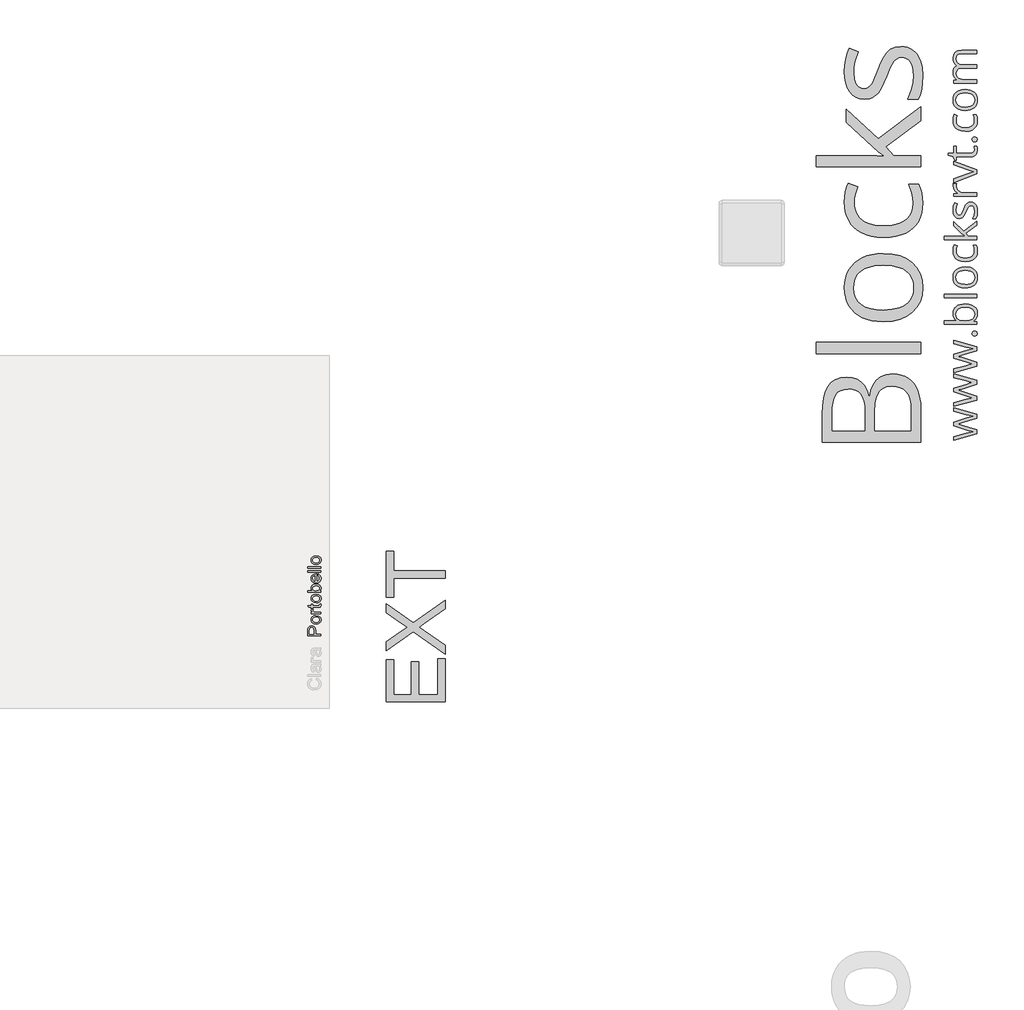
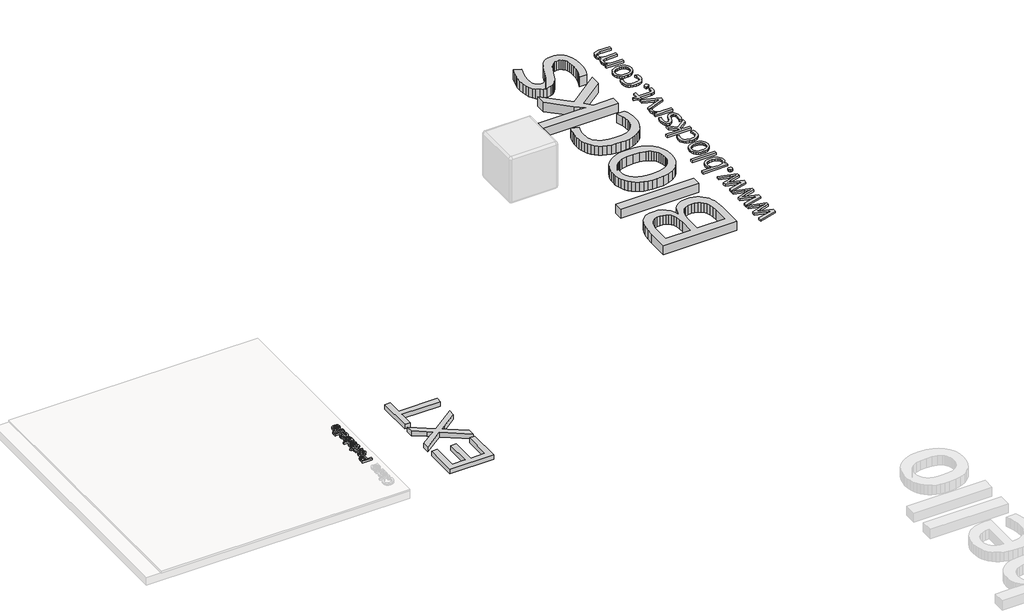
# One storey, part 6 of 6: 4 proxies.
"""IFC4 building model written with IfcOpenShell, lengths in millimetres."""

from ifc_helpers import new_model, si_unit, frame, origin, origin_with_axes, place, context, project, spatial, polyline, outline, extrude, element, save

model = new_model("IFC4")

# Units and contexts
model_context = context("Model", 3, world=origin())
ifc_project = project(units=[si_unit("LENGTHUNIT", "METRE", prefix="MILLI")], contexts=[model_context])

# Site, building, storey
site = spatial("IfcSite", under=ifc_project)
building = spatial("IfcBuilding", under=site)
storey = spatial("IfcBuildingStorey", under=building, Name="PORTOBELLO - SHOWROOM", Elevation=0.0)

# Proxies
placement = place(None, origin())
element("IfcBuildingElementProxy", 1, Name="10mm Arial", ObjectType="10mm Arial", at=placement, inside=storey, context=model_context, shape_type="SweptSolid", body=[
    extrude(outline(polyline([(153128.3895945, -1464.8655286), (153027.9332844, -1464.8655286), (153027.9332844, -1427.6358707), (153028.8897775, -1412.6262853), (153033.5864043, -1400.4248658), (153043.298489, -1392.5154029), (153056.995962, -1389.523296), (153068.8356309, -1391.5435813), (153078.7009997, -1397.6044372), (153085.3596638, -1408.9382683), (153087.5792185, -1426.7774794), (153087.5792185, -1452.3084899), (153128.3895945, -1452.3084899), (153128.3895945, -1464.8655286)]), holes=[polyline([(153075.0221797, -1452.3084899), (153075.0221797, -1426.0417154), (153070.4113921, -1407.5495138), (153064.8625053, -1403.4476295), (153057.4374204, -1402.0803348), (153047.0386226, -1405.3054336), (153041.3487144, -1413.7789822), (153040.4903231, -1426.336021), (153040.4903231, -1452.3084899), (153075.0221797, -1452.3084899)])]), frame((0.0, 0.0, 17.0), z_axis=(0.0, 0.0, 1.0), x_axis=(1.0, 0.0, 0.0)), (0.0, 0.0, 1.0), 20.0),
    extrude(outline(polyline([(153091.5032931, -1376.9662573), (153073.7161987, -1374.2500619), (153061.2143422, -1366.1014757), (153055.089107, -1356.0337717), (153053.0473619, -1343.979505), (153055.533631, -1330.7878698), (153062.9924385, -1320.2511163), (153074.8351731, -1313.3441319), (153090.4732235, -1311.0418037), (153112.8159234, -1315.1130311), (153125.4588013, -1326.9710941), (153129.9592243, -1343.979505), (153127.4821522, -1357.3305558), (153120.0509359, -1367.8550465), (153107.959881, -1374.6884546), (153091.5032931, -1376.9662573)]), holes=[polyline([(153091.4787677, -1364.4092185), (153102.8432556, -1362.9560846), (153110.9397252, -1358.596683), (153115.7865705, -1352.0361207), (153117.4021856, -1343.979505), (153115.7773734, -1335.9596775), (153110.902937, -1329.411378), (153102.6991685, -1325.0519764), (153091.0863602, -1323.5988425), (153080.052966, -1325.0611734), (153072.066861, -1329.4481662), (153067.2200158, -1336.0056628), (153065.6044007, -1343.979505), (153067.2138844, -1352.0361207), (153072.0423356, -1358.596683), (153080.1204111, -1362.9560846), (153091.4787677, -1364.4092185)])]), frame((0.0, 0.0, 17.0), z_axis=(0.0, 0.0, 1.0), x_axis=(1.0, 0.0, 0.0)), (0.0, 0.0, 1.0), 20.0),
    extrude(outline(polyline([(153128.3895945, -1296.9151351), (153054.6169917, -1296.9151351), (153054.6169917, -1285.9277262), (153065.5308243, -1285.9277262), (153055.4753831, -1278.1286279), (153053.0473619, -1270.2804787), (153056.9223856, -1257.674389), (153068.1795746, -1261.8682437), (153065.6044007, -1270.6974116), (153068.0814728, -1277.7975341), (153074.9486033, -1282.3224826), (153089.6148322, -1284.3580963), (153128.3895945, -1284.3580963), (153128.3895945, -1296.9151351)])), frame((0.0, 0.0, 17.0), z_axis=(0.0, 0.0, 1.0), x_axis=(1.0, 0.0, 0.0)), (0.0, 0.0, 1.0), 20.0),
    extrude(outline(polyline([(153117.9172204, -1223.1425323), (153128.7574765, -1221.5729025), (153129.9592243, -1230.9661561), (153127.8745597, -1241.4875812), (153122.4053807, -1246.736031), (153108.1560848, -1248.2566099), (153067.1740305, -1248.2566099), (153067.1740305, -1257.674389), (153056.9223856, -1257.674389), (153054.6169917, -1257.674389), (153054.6169917, -1248.2566099), (153036.6888758, -1248.2566099), (153029.3067105, -1235.6995711), (153054.6169917, -1235.6995711), (153054.6169917, -1223.1425323), (153067.1740305, -1223.1425323), (153067.1740305, -1235.6995711), (153107.7882028, -1235.6995711), (153114.2629259, -1235.0373835), (153116.556057, -1232.8914052), (153117.4021856, -1228.6117113), (153117.9172204, -1223.1425323)])), frame((0.0, 0.0, 17.0), z_axis=(0.0, 0.0, 1.0), x_axis=(1.0, 0.0, 0.0)), (0.0, 0.0, 1.0), 20.0),
    extrude(outline(polyline([(153091.5032931, -1213.7247533), (153073.7161987, -1211.0085579), (153061.2143422, -1202.8599717), (153055.089107, -1192.7922677), (153053.0473619, -1180.738001), (153055.533631, -1167.5463658), (153062.9924385, -1157.0096123), (153074.8351731, -1150.1026279), (153090.4732235, -1147.8002997), (153112.8159234, -1151.8715271), (153125.4588013, -1163.7295901), (153129.9592243, -1180.738001), (153127.4821522, -1194.0890518), (153120.0509359, -1204.6135425), (153107.959881, -1211.4469506), (153091.5032931, -1213.7247533)]), holes=[polyline([(153091.4787677, -1201.1677145), (153102.8432556, -1199.7145806), (153110.9397252, -1195.355179), (153115.7865705, -1188.7946167), (153117.4021856, -1180.738001), (153115.7773734, -1172.7181735), (153110.902937, -1166.169874), (153102.6991685, -1161.8104724), (153091.0863602, -1160.3573385), (153080.052966, -1161.8196694), (153072.066861, -1166.2066622), (153067.2200158, -1172.7641588), (153065.6044007, -1180.738001), (153067.2138844, -1188.7946167), (153072.0423356, -1195.355179), (153080.1204111, -1199.7145806), (153091.4787677, -1201.1677145)])]), frame((0.0, 0.0, 17.0), z_axis=(0.0, 0.0, 1.0), x_axis=(1.0, 0.0, 0.0)), (0.0, 0.0, 1.0), 20.0),
    extrude(outline(polyline([(153128.3895945, -1121.1165923), (153128.3895945, -1133.6736311), (153027.9332844, -1133.6736311), (153027.9332844, -1121.1165923), (153065.1874677, -1121.1165923), (153056.0823884, -1112.3242127), (153053.0473619, -1101.3981174), (153055.7819514, -1088.8165532), (153063.4706851, -1079.0554176), (153075.4268499, -1073.058941), (153090.3996471, -1070.8884373), (153107.1628034, -1073.1355831), (153119.634003, -1079.8770207), (153127.377919, -1089.7699807), (153129.9592243, -1101.4716938), (153126.6298923, -1112.6369124), (153116.6418961, -1121.1165923), (153128.3895945, -1121.1165923)]), holes=[polyline([(153090.9882583, -1121.1165923), (153108.5484922, -1117.6830271), (153115.1887622, -1111.1040707), (153117.4021856, -1102.5508143), (153115.7712421, -1095.303539), (153110.8784115, -1089.1108588), (153102.7543508, -1084.8618217), (153091.4297167, -1083.445476), (153079.9395357, -1084.8035737), (153071.9074455, -1088.8778668), (153067.1801619, -1094.877409), (153065.6044007, -1102.0112541), (153067.2353442, -1109.2585294), (153072.1281747, -1115.4512096), (153080.1050826, -1119.7002467), (153090.9882583, -1121.1165923)])]), frame((0.0, 0.0, 17.0), z_axis=(0.0, 0.0, 1.0), x_axis=(1.0, 0.0, 0.0)), (0.0, 0.0, 1.0), 20.0),
    extrude(outline(polyline([(153106.4147767, -1005.1111365), (153107.9844065, -992.7993524), (153117.2611641, -997.2353962), (153124.1957398, -1004.3140589), (153128.5183532, -1013.8759251), (153129.9592243, -1025.7615792), (153127.4729552, -1040.4952531), (153120.0141477, -1051.8321499), (153108.06718, -1059.0610311), (153092.1164298, -1061.4706582), (153075.629185, -1059.0365057), (153063.2990068, -1051.7340481), (153055.6102731, -1040.5504354), (153053.0473619, -1026.4728177), (153055.6041418, -1012.8335927), (153063.2744814, -1001.9350886), (153075.5801341, -994.7889809), (153092.0428534, -992.406945), (153095.4273677, -992.4805214), (153095.4273677, -1048.9136194), (153104.8267527, -1046.74005), (153111.7368029, -1041.6908696), (153115.9858399, -1034.4037404), (153117.4021856, -1025.5163245), (153114.7779607, -1013.2045404), (153106.4147767, -1005.1111365)]), holes=[polyline([(153082.870329, -1048.9136194), (153082.870329, -1004.9639837), (153071.4905126, -1009.9917043), (153067.0759286, -1017.312556), (153065.6044007, -1026.5218687), (153070.3010275, -1041.9851752), (153075.7916662, -1046.8504146), (153082.870329, -1048.9136194)])]), frame((0.0, 0.0, 17.0), z_axis=(0.0, 0.0, 1.0), x_axis=(1.0, 0.0, 0.0)), (0.0, 0.0, 1.0), 20.0),
    extrude(outline(polyline([(153128.3895945, -979.8499062), (153027.9332844, -979.8499062), (153027.9332844, -967.2928674), (153128.3895945, -967.2928674), (153128.3895945, -979.8499062)])), frame((0.0, 0.0, 17.0), z_axis=(0.0, 0.0, 1.0), x_axis=(1.0, 0.0, 0.0)), (0.0, 0.0, 1.0), 20.0),
    extrude(outline(polyline([(153128.3895945, -948.4573093), (153027.9332844, -948.4573093), (153027.9332844, -935.9002705), (153128.3895945, -935.9002705), (153128.3895945, -948.4573093)])), frame((0.0, 0.0, 17.0), z_axis=(0.0, 0.0, 1.0), x_axis=(1.0, 0.0, 0.0)), (0.0, 0.0, 1.0), 20.0),
    extrude(outline(polyline([(153091.5032931, -920.203972), (153073.7161987, -917.4877766), (153061.2143422, -909.3391905), (153055.089107, -899.2714865), (153053.0473619, -887.2172198), (153055.533631, -874.0255846), (153062.9924385, -863.4888311), (153074.8351731, -856.5818467), (153090.4732235, -854.2795185), (153112.8159234, -858.3507459), (153125.4588013, -870.2088089), (153129.9592243, -887.2172198), (153127.4821522, -900.5682706), (153120.0509359, -911.0927613), (153107.959881, -917.9261694), (153091.5032931, -920.203972)]), holes=[polyline([(153091.4787677, -907.6469333), (153102.8432556, -906.1937994), (153110.9397252, -901.8343978), (153115.7865705, -895.2738355), (153117.4021856, -887.2172198), (153115.7773734, -879.1973923), (153110.902937, -872.6490928), (153102.6991685, -868.2896912), (153091.0863602, -866.8365573), (153080.052966, -868.2988882), (153072.066861, -872.685881), (153067.2200158, -879.2433776), (153065.6044007, -887.2172198), (153067.2138844, -895.2738355), (153072.0423356, -901.8343978), (153080.1204111, -906.1937994), (153091.4787677, -907.6469333)])]), frame((0.0, 0.0, 17.0), z_axis=(0.0, 0.0, 1.0), x_axis=(1.0, 0.0, 0.0)), (0.0, 0.0, 1.0), 20.0),
])
element("IfcBuildingElementProxy", 2, Name="25mm OpenSans", ObjectType="25mm OpenSans", at=placement, inside=storey, context=model_context, shape_type="SweptSolid", body=[
    extrude(outline(polyline([(158150.2193997, 199.5914173), (158046.9289939, 168.0346242), (158033.8490405, 164.0993947), (158021.556133, 160.7263408), (158010.5749686, 157.9529409), (158001.7300718, 155.966587), (158010.5749686, 153.0432736), (158021.6685681, 150.3823089), (158034.2238242, 147.0467334), (158047.3787344, 142.9990687), (158150.2193997, 110.0180973), (158150.2193997, 79.8105258), (157972.7218083, 31.0136795), (157972.7218083, 58.8226349), (158070.6902846, 84.307931), (158089.8792134, 89.2550767), (158107.6814423, 93.3027414), (158122.185574, 95.7763142), (158112.4786745, 99.2992816), (158100.4106373, 102.0352031), (158087.5930325, 105.3333002), (158075.5624736, 108.893746), (157972.7218083, 141.5748904), (157972.7218083, 170.5081971), (158075.4125601, 201.9900334), (158091.6032188, 206.7497872), (158107.8688342, 211.0598005), (158121.885747, 213.7582436), (158108.2810963, 217.5060813), (158090.4413891, 221.6287027), (158070.6902846, 226.5758484), (157972.7218083, 252.4359283), (157972.7218083, 279.7201864), (158150.2193997, 230.7734266), (158150.2193997, 199.5914173)])), origin_with_axes(), (0.0, 0.0, 1.0), 20.0),
    extrude(outline(polyline([(158150.2193997, 458.6419561), (158046.9289939, 427.0851631), (158033.8490405, 423.1499335), (158021.556133, 419.7768796), (158010.5749686, 417.0034798), (158001.7300718, 415.0171258), (158010.5749686, 412.0938124), (158021.6685681, 409.4328477), (158034.2238243, 406.0972722), (158047.3787344, 402.0496075), (158150.2193997, 369.0686361), (158150.2193997, 338.8610646), (157972.7218083, 290.0642183), (157972.7218083, 317.8731737), (158070.6902846, 343.3584698), (158089.8792134, 348.3056155), (158107.6814423, 352.3532802), (158122.185574, 354.826853), (158112.4786745, 358.3498204), (158100.4106373, 361.0857419), (158087.5930325, 364.3838391), (158075.5624736, 367.9442848), (157972.7218083, 400.6254292), (157972.7218083, 429.5587359), (158075.4125601, 461.0405722), (158091.6032188, 465.8003261), (158107.8688342, 470.1103394), (158121.885747, 472.8087825), (158108.2810963, 476.5566201), (158090.4413891, 480.6792415), (158070.6902846, 485.6263873), (157972.7218083, 511.4864671), (157972.7218083, 538.7707252), (158150.2193997, 489.8239654), (158150.2193997, 458.6419561)])), origin_with_axes(), (0.0, 0.0, 1.0), 20.0),
    extrude(outline(polyline([(158150.2193997, 717.6924949), (158046.9289939, 686.1357019), (158033.8490405, 682.2004723), (158021.556133, 678.8274185), (158010.5749686, 676.0540186), (158001.7300718, 674.0676646), (158010.5749686, 671.1443513), (158021.6685681, 668.4833865), (158034.2238243, 665.147811), (158047.3787344, 661.1001463), (158150.2193997, 628.119175), (158150.2193997, 597.9116034), (157972.7218083, 549.1147572), (157972.7218083, 576.9237126), (158070.6902846, 602.4090086), (158089.8792134, 607.3561543), (158107.6814423, 611.403819), (158122.185574, 613.8773919), (158112.4786745, 617.4003593), (158100.4106373, 620.1362807), (158087.5930325, 623.4343779), (158075.5624736, 626.9948237), (157972.7218083, 659.675968), (157972.7218083, 688.6092747), (158075.4125601, 720.091111), (158091.6032188, 724.8508649), (158107.8688342, 729.1608782), (158121.885747, 731.8593213), (158108.2810963, 735.6071589), (158090.4413891, 739.7297804), (158070.6902846, 744.6769261), (157972.7218083, 770.5370059), (157972.7218083, 797.821264), (158150.2193997, 748.8745043), (158150.2193997, 717.6924949)])), origin_with_axes(), (0.0, 0.0, 1.0), 20.0),
    extrude(outline(polyline([(158133.728914, 828.4785761), (158124.0501233, 829.8559064), (158117.6506905, 833.9878974), (158112.8909367, 847.4426346), (158117.6506905, 861.3471123), (158124.0501233, 865.5915385), (158133.728914, 867.0063472), (158143.3233784, 865.5915385), (158149.9195727, 861.3471123), (158155.0166319, 847.4426346), (158149.9195727, 833.9878974), (158143.3233784, 829.8559064), (158133.728914, 828.4785761)])), origin_with_axes(), (0.0, 0.0, 1.0), 20.0),
    extrude(outline(polyline([(157900.7633253, 945.710938), (157961.0285548, 945.710938), (157981.154443, 945.1487623), (157996.3331855, 944.2867597), (157985.333282, 954.6026828), (157976.1698189, 966.7363072), (157969.9858868, 982.392899), (157967.9245761, 1001.8535461), (157969.39326, 1017.6506818), (157973.7993116, 1031.7612906), (157981.142731, 1044.1853724), (157991.4235182, 1054.9229273), (158004.59951, 1063.5804323), (158020.6285432, 1069.7643644), (158061.2457338, 1074.7115101), (158089.3545162, 1072.4440683), (158112.6660664, 1065.641743), (158131.0304709, 1054.7261658), (158144.2978162, 1040.1189685), (158152.336928, 1022.1574566), (158155.0166319, 1001.1789353), (158153.0583867, 982.0555936), (158147.1836512, 966.6613505), (158138.4792983, 954.6963788), (158128.0322008, 945.8608515), (158128.0322008, 943.7620624), (158150.2193997, 938.2902194), (158150.2193997, 918.8764204), (157900.7633253, 918.8764204), (157900.7633253, 945.710938)]), holes=[polyline([(157990.3366453, 997.4310976), (157992.2667817, 980.2097836), (157998.0571909, 966.9236991), (158007.726612, 957.1980604), (158021.2937843, 950.6580837), (158060.571123, 945.710938), (158092.3621559, 948.503077), (158114.5774636, 956.8794942), (158122.5299066, 963.602178), (158128.2102231, 972.6016732), (158132.7544762, 997.4310976), (158128.1071575, 1019.0748601), (158114.1652015, 1034.5346904), (158091.5844796, 1043.8105886), (158061.0208635, 1046.9025547), (158030.213638, 1043.8574366), (158008.1013958, 1034.7220823), (157994.7778329, 1019.3091), (157990.3366453, 997.4310976)])]), origin_with_axes(), (0.0, 0.0, 1.0), 20.0),
    extrude(outline(polyline([(158150.2193997, 1147.3446039), (158150.2193997, 1120.3601728), (157900.7633253, 1120.3601728), (157900.7633253, 1147.3446039), (158150.2193997, 1147.3446039)])), origin_with_axes(), (0.0, 0.0, 1.0), 20.0),
    extrude(outline(polyline([(158061.170777, 1359.4722153), (158100.8228994, 1353.8129804), (158116.9292317, 1346.8982199), (158130.3183818, 1337.4724082), (158140.9247623, 1325.6854588), (158148.6827863, 1311.6872851), (158153.4331705, 1295.599692), (158155.0166319, 1277.5444841), (158153.4331705, 1260.5199315), (158148.6827863, 1244.9757748), (158140.9247623, 1231.1837323), (158130.3183818, 1219.415522), (158116.9292317, 1209.8772752), (158100.8228994, 1202.7751228), (158082.1774071, 1198.362044), (158061.170777, 1196.8910177), (158033.699127, 1199.355221), (158010.6499254, 1206.7478308), (157992.2855209, 1218.7221721), (157978.8682621, 1234.9315699), (157970.6604976, 1255.0293494), (157967.9245761, 1278.6688354), (157970.6792368, 1301.371362), (157978.9432188, 1321.0568793), (157992.4166952, 1337.2194292), (158010.7998389, 1349.3530536), (158033.8115621, 1356.9424248), (158061.170777, 1359.4722153)]), holes=[polyline([(158061.0958202, 1224.6999731), (158081.5402747, 1226.1147818), (158099.0988941, 1230.359208), (158113.3781556, 1237.5456867), (158123.9845361, 1247.7866531), (158130.5619912, 1261.2601295), (158132.7544762, 1278.1441381), (158130.5619912, 1294.9438204), (158123.9845361, 1308.4641448), (158113.3781556, 1318.7894375), (158099.0988941, 1326.004025), (158081.5402747, 1330.2484511), (158061.0958202, 1331.6632598), (158040.8856057, 1330.2484511), (158023.5799653, 1326.004025), (158009.5349437, 1318.8081767), (157999.1065854, 1308.5391015), (157992.6415655, 1295.000038), (157990.4865588, 1277.9942246), (157995.1713559, 1254.0923899), (158009.2257471, 1237.5550563), (158031.5628595, 1227.9137439), (158061.0958202, 1224.6999731)])]), origin_with_axes(), (0.0, 0.0, 1.0), 20.0),
    extrude(outline(polyline([(158155.0166319, 1479.17815), (158152.5055807, 1456.6817545), (158144.972427, 1437.0149764), (158132.2953661, 1420.7774697), (158114.3525933, 1408.5688886), (158091.0878911, 1400.9232997), (158062.4450418, 1398.3747701), (158032.6684716, 1401.0638437), (158008.8509633, 1409.1310642), (157990.7114291, 1421.9205602), (157977.968781, 1438.7764601), (157970.4356273, 1458.9585659), (157967.9245761, 1481.7266796), (157970.5855408, 1507.3618892), (157977.2941702, 1527.6751693), (157999.7062394, 1519.5798399), (157993.8970911, 1500.9156084), (157991.3110831, 1481.1270256), (157993.344285, 1464.2430169), (157999.4438908, 1450.4697136), (158009.4787261, 1439.7977458), (158023.3176167, 1432.2177442), (158040.8949753, 1427.6922302), (158062.1452148, 1426.1837255), (158082.57093, 1427.6547518), (158099.7735049, 1432.0678307), (158113.5186995, 1439.4135925), (158123.572274, 1449.6826677), (158129.7280973, 1462.8844258), (158131.7800385, 1479.0282365), (158128.7817683, 1504.3636191), (158121.7358335, 1524.9017694), (158145.6470378, 1524.9017694), (158152.5805374, 1505.1131866), (158155.0166319, 1479.17815)])), origin_with_axes(), (0.0, 0.0, 1.0), 20.0),
    extrude(outline(polyline([(157900.7633253, 1593.1873715), (158029.6139839, 1593.1873715), (158045.1300318, 1592.7001526), (158061.3206905, 1591.9131067), (158048.8403911, 1602.9692278), (158035.5355674, 1614.0253489), (157972.7218083, 1672.8664001), (157972.7218083, 1704.4231932), (158048.5030857, 1633.1393209), (158150.2193997, 1709.5952091), (158150.2193997, 1677.2138918), (158066.1928795, 1614.6999597), (158085.9065055, 1593.1873715), (158150.2193997, 1593.1873715), (158150.2193997, 1566.5027674), (157900.7633253, 1566.5027674), (157900.7633253, 1593.1873715)])), origin_with_axes(), (0.0, 0.0, 1.0), 20.0),
    extrude(outline(polyline([(158102.3220345, 1853.8120022), (158118.2503445, 1851.6944739), (158131.4052547, 1845.3418891), (158141.7118082, 1835.0447051), (158149.0950484, 1821.0933794), (158153.536236, 1803.8064782), (158155.0166319, 1783.5025677), (158152.0933185, 1751.3461206), (158143.8480757, 1727.5848299), (158119.1123472, 1727.5848299), (158128.8567251, 1753.4823881), (158133.2042168, 1784.1771785), (158131.28345, 1803.9657613), (158125.5211496, 1817.4579769), (158116.460752, 1825.2160008), (158104.6456938, 1827.8020088), (158091.5657404, 1823.6793874), (158080.5470977, 1809.8498664), (158068.7414091, 1783.0528272), (158055.6239773, 1753.66978), (158039.7331456, 1734.5932863), (158028.9581123, 1729.5618142), (158015.3722008, 1727.8846569), (157995.1057687, 1732.4382797), (157980.1800052, 1746.0991479), (157970.9884334, 1767.1432563), (157967.9245761, 1793.8465997), (157971.0727597, 1823.8667793), (157979.5428728, 1849.914251), (158001.055461, 1840.9194406), (157993.1100452, 1817.4579769), (157989.8869048, 1792.0476376), (157991.4609966, 1775.622739), (157996.183272, 1763.526593), (158003.641469, 1756.0777657), (158013.4233253, 1753.5948232), (158027.3652813, 1758.2046635), (158037.6718349, 1773.0086223), (158048.9528262, 1799.8431399), (158061.8453878, 1828.5890547), (158077.9985681, 1847.2532863), (158088.8204493, 1852.1723232), (158102.3220345, 1853.8120022)])), origin_with_axes(), (0.0, 0.0, 1.0), 20.0),
    extrude(outline(polyline([(157967.9245761, 1978.0153421), (157968.4867518, 1989.1838983), (157970.0233652, 1999.5279302), (157994.9090072, 1996.1548764), (157993.1100452, 1986.4104984), (157992.4354344, 1976.4412503), (157996.7829261, 1956.2778837), (158009.2257471, 1939.7124412), (158028.6770245, 1928.543885), (158053.9749287, 1924.4962204), (158150.2193997, 1924.4962204), (158150.2193997, 1897.5117892), (157972.7218083, 1897.5117892), (157972.7218083, 1919.8489017), (158003.7539041, 1922.772215), (157985.7642834, 1937.1264333), (157972.7592867, 1955.1535324), (157967.9245761, 1978.0153421)])), origin_with_axes(), (0.0, 0.0, 1.0), 20.0),
    extrude(outline(polyline([(158150.2193997, 2070.8118025), (157972.7218083, 2003.5755949), (157972.7218083, 2032.3589881), (158080.1348355, 2071.261543), (158104.4208236, 2079.5442642), (158125.7834982, 2085.3534126), (158104.3083884, 2092.961523), (158080.1348355, 2101.1692875), (157972.7218083, 2140.1467991), (157972.7218083, 2168.9301923), (158150.2193997, 2101.5440713), (158150.2193997, 2070.8118025)])), origin_with_axes(), (0.0, 0.0, 1.0), 20.0),
    extrude(outline(polyline([(158133.0543033, 2257.0043773), (158131.929952, 2270.5715496), (158129.1565521, 2281.8900193), (158149.9945295, 2281.8900193), (158153.5549752, 2268.8475442), (158155.0166319, 2252.5819288), (158150.0320078, 2227.0966328), (158143.3046392, 2216.77134), (158133.0917816, 2208.7322282), (158118.8593681, 2203.5602123), (158100.0733319, 2201.8362069), (157993.7096992, 2201.8362069), (157993.7096992, 2176.6507379), (157980.6672241, 2176.6507379), (157970.0983219, 2202.0610772), (157929.5467185, 2212.7049361), (157929.5467185, 2228.8206381), (157972.7218083, 2228.8206381), (157972.7218083, 2280.765668), (157993.7096992, 2280.765668), (157993.7096992, 2228.8206381), (158099.4736779, 2228.8206381), (158114.2120494, 2230.7414049), (158124.6966253, 2236.5037053), (158130.9648838, 2245.4704069), (158133.0543033, 2257.0043773)])), origin_with_axes(), (0.0, 0.0, 1.0), 20.0),
    extrude(outline(polyline([(158133.728914, 2315.6205582), (158124.0501233, 2316.9978885), (158117.6506905, 2321.1298796), (158112.8909367, 2334.5846167), (158117.6506905, 2348.4890944), (158124.0501233, 2352.7335206), (158133.728914, 2354.1483293), (158143.3233784, 2352.7335206), (158149.9195727, 2348.4890944), (158155.0166319, 2334.5846167), (158149.9195727, 2321.1298796), (158143.3233784, 2316.9978885), (158133.728914, 2315.6205582)])), origin_with_axes(), (0.0, 0.0, 1.0), 20.0),
    extrude(outline(polyline([(158155.0166319, 2477.0024477), (158152.5055807, 2454.5060522), (158144.972427, 2434.8392741), (158132.2953661, 2418.6017674), (158114.3525933, 2406.3931862), (158091.0878911, 2398.7475974), (158062.4450418, 2396.1990678), (158032.6684716, 2398.8881413), (158008.8509633, 2406.9553619), (157990.7114291, 2419.7448579), (157977.968781, 2436.6007578), (157970.4356273, 2456.7828635), (157967.9245761, 2479.5509773), (157970.5855408, 2505.1861869), (157977.2941702, 2525.499467), (157999.7062394, 2517.4041376), (157993.8970911, 2498.7399061), (157991.3110831, 2478.9513233), (157993.344285, 2462.0673146), (157999.4438908, 2448.2940112), (158009.4787261, 2437.6220435), (158023.3176167, 2430.0420419), (158040.8949753, 2425.5165279), (158062.1452148, 2424.0080232), (158082.57093, 2425.4790495), (158099.7735049, 2429.8921283), (158113.5186995, 2437.2378902), (158123.572274, 2447.5069653), (158129.7280973, 2460.7087235), (158131.7800385, 2476.8525342), (158128.7817683, 2502.1879167), (158121.7358335, 2522.7260671), (158145.6470378, 2522.7260671), (158152.5805374, 2502.9374843), (158155.0166319, 2477.0024477)])), origin_with_axes(), (0.0, 0.0, 1.0), 20.0),
    extrude(outline(polyline([(158061.170777, 2717.088928), (158100.8228994, 2711.4296931), (158116.9292317, 2704.5149326), (158130.3183818, 2695.0891209), (158140.9247623, 2683.3021715), (158148.6827863, 2669.3039978), (158153.4331705, 2653.2164047), (158155.0166319, 2635.1611968), (158153.4331705, 2618.1366442), (158148.6827863, 2602.5924876), (158140.9247623, 2588.800445), (158130.3183818, 2577.0322347), (158116.9292317, 2567.4939879), (158100.8228994, 2560.3918355), (158082.1774071, 2555.9787567), (158061.170777, 2554.5077304), (158033.699127, 2556.9719337), (158010.6499254, 2564.3645435), (157992.2855209, 2576.3388848), (157978.8682621, 2592.5482826), (157970.6604976, 2612.6460621), (157967.9245761, 2636.2855481), (157970.6792368, 2658.9880747), (157978.9432188, 2678.673592), (157992.4166952, 2694.8361419), (158010.7998389, 2706.9697663), (158033.8115621, 2714.5591376), (158061.170777, 2717.088928)]), holes=[polyline([(158061.0958202, 2582.3166858), (158081.5402747, 2583.7314946), (158099.0988941, 2587.9759207), (158113.3781556, 2595.1623994), (158123.9845361, 2605.4033658), (158130.5619912, 2618.8768422), (158132.7544762, 2635.7608508), (158130.5619912, 2652.5605331), (158123.9845361, 2666.0808575), (158113.3781556, 2676.4061502), (158099.0988941, 2683.6207377), (158081.5402747, 2687.8651638), (158061.0958202, 2689.2799726), (158040.8856057, 2687.8651638), (158023.5799653, 2683.6207377), (158009.5349437, 2676.4248894), (157999.1065854, 2666.1558142), (157992.6415655, 2652.6167507), (157990.4865588, 2635.6109373), (157995.1713559, 2611.7091027), (158009.2257471, 2595.171769), (158031.5628595, 2585.5304566), (158061.0958202, 2582.3166858)])]), origin_with_axes(), (0.0, 0.0, 1.0), 20.0),
    extrude(outline(polyline([(157967.9245761, 2958.149846), (157971.7848489, 2983.8412732), (157983.3656673, 3002.2993736), (158003.4728163, 3013.4304515), (158032.9120811, 3017.1408108), (158150.2193997, 3017.1408108), (158150.2193997, 2990.6810769), (158034.0364324, 2990.6810769), (158014.9599387, 2988.3574176), (158001.355288, 2981.3864395), (157993.2037411, 2969.8430995), (157990.4865588, 2953.8023544), (157994.2531356, 2931.6151554), (158005.5528662, 2916.4738913), (158024.1796193, 2907.7601687), (158049.927264, 2904.8555946), (158150.2193997, 2904.8555946), (158150.2193997, 2878.1709904), (158034.0364324, 2878.1709904), (158009.7879227, 2874.048369), (157995.3212694, 2861.7554615), (157990.4865588, 2841.1423544), (157992.3323688, 2825.2702619), (157997.869799, 2812.8836585), (158007.0238925, 2803.7014562), (158019.7196925, 2797.4425673), (158055.3241503, 2792.6453351), (158150.2193997, 2792.6453351), (158150.2193997, 2765.8108175), (157972.7218083, 2765.8108175), (157972.7218083, 2787.4733192), (157996.183272, 2791.5209838), (157980.6672241, 2806.3998993), (157971.1477165, 2824.5019552), (157967.9245761, 2845.8646298), (157969.7984949, 2864.4070567), (157975.4202514, 2879.7076039), (157984.8835415, 2891.5039229), (157998.2820611, 2899.5336651), (157984.8835415, 2911.2831361), (157975.4202514, 2924.8690476), (157969.7984949, 2940.7973577), (157967.9245761, 2958.149846)])), origin_with_axes(), (0.0, 0.0, 1.0), 20.0),
])
element("IfcBuildingElementProxy", 3, Name="450mm Arial", ObjectType="450mm Arial", at=placement, inside=storey, context=model_context, shape_type="SweptSolid", body=[
    extrude(outline(polyline([(154079.8667023, -1972.473799), (153630.2105594, -1972.473799), (153630.2105594, -1649.2834464), (153686.4175773, -1649.2834464), (153686.4175773, -1916.2667812), (153819.9092447, -1916.2667812), (153819.9092447, -1663.3352008), (153876.1162625, -1663.3352008), (153876.1162625, -1916.2667812), (154023.6596844, -1916.2667812), (154023.6596844, -1642.2575691), (154079.8667023, -1642.2575691), (154079.8667023, -1972.473799)])), origin_with_axes(), (0.0, 0.0, 1.0), 50.0),
    extrude(outline(polyline([(154079.8667023, -1607.128183), (153834.8392338, -1433.7866182), (153630.2105594, -1579.0246741), (153630.2105594, -1511.6201644), (153745.3690784, -1429.8345622), (153790.2688251, -1402.27995), (153744.6006231, -1370.0048264), (153630.2105594, -1289.0974589), (153630.2105594, -1220.7049353), (153835.4979098, -1365.9429912), (154079.8667023, -1192.6014263), (154079.8667023, -1260.005936), (153916.954174, -1375.493793), (153883.1421398, -1399.5354667), (153920.2475539, -1425.9922856), (154079.8667023, -1538.7356593), (154079.8667023, -1607.128183)])), origin_with_axes(), (0.0, 0.0, 1.0), 50.0),
    extrude(outline(polyline([(154079.8667023, -1023.9803728), (153686.4175773, -1023.9803728), (153686.4175773, -1171.5237946), (153630.2105594, -1171.5237946), (153630.2105594, -820.2299331), (153686.4175773, -820.2299331), (153686.4175773, -967.7733549), (154079.8667023, -967.7733549), (154079.8667023, -1023.9803728)])), origin_with_axes(), (0.0, 0.0, 1.0), 50.0),
])
element("IfcBuildingElementProxy", 4, Name="80mm OpenSans", ObjectType="80mm OpenSans", at=placement, inside=storey, context=model_context, shape_type="SweptSolid", body=[
    extrude(outline(polyline([(156966.9863764, 14.1215251), (156966.9863764, 228.7688827), (156969.6529432, 295.3879832), (156977.6526435, 353.1886346), (156990.9854773, 402.1708371), (157009.6514447, 442.3345907), (157034.7021494, 473.6198036), (157067.1891952, 495.9663842), (157107.1125822, 509.3743326), (157154.4723103, 513.8436488), (157196.4162788, 509.6372336), (157233.7932823, 497.017988), (157265.8221293, 476.346462), (157291.7216285, 447.9832053), (157311.0711383, 412.0484014), (157323.4500173, 368.6622333), (157328.7380821, 368.6622333), (157339.6146699, 415.5637626), (157356.8609722, 456.7565856), (157381.4084093, 490.9487319), (157414.1884019, 516.848231), (157433.8759273, 526.3652454), (157456.042233, 533.1631128), (157507.8111856, 538.6014067), (157541.0719113, 536.5808251), (157571.628513, 530.5190804), (157599.4809907, 520.4161725), (157624.6293443, 506.2721014), (157646.9684135, 488.4323942), (157666.3930379, 467.2425777), (157682.9032175, 442.702652), (157696.4989523, 414.8126171), (157707.1201506, 383.8954655), (157714.7067209, 350.2741898), (157719.258663, 313.9487902), (157720.7759771, 274.9192664), (157720.7759771, 14.1215251), (156966.9863764, 14.1215251)]), holes=[polyline([(157292.9234614, 102.3360607), (157292.9234614, 247.5174761), (157290.872834, 293.1195235), (157284.7209518, 331.1350008), (157274.4678148, 361.5639077), (157260.113423, 384.4062445), (157241.8230284, 401.0741646), (157219.7618831, 412.9798219), (157193.929987, 420.1232162), (157164.3273401, 422.5043477), (157134.0411508, 419.6725289), (157108.3219266, 411.1770725), (157087.1696674, 397.0179785), (157070.5843732, 377.195247), (157058.070288, 351.183076), (157049.1316558, 318.4556636), (157043.7684764, 279.0130098), (157041.98075, 232.8551146), (157041.98075, 102.3360607), (157292.9234614, 102.3360607)]), polyline([(157366.9563686, 102.3360607), (157645.5412369, 102.3360607), (157645.5412369, 259.7761718), (157643.1075253, 306.6701896), (157635.8063904, 346.1579121), (157623.6378322, 378.2393393), (157606.6018507, 402.9144713), (157585.4195457, 421.2649575), (157560.8120168, 434.3724477), (157532.7792642, 442.2369418), (157501.3212878, 444.8584398), (157462.2316725, 440.1412456), (157429.09113, 425.9896631), (157414.8944788, 415.0905409), (157402.4705311, 401.261951), (157382.9407463, 364.816368), (157370.952463, 315.4811271), (157366.9563686, 252.0844412), (157366.9563686, 102.3360607)])]), origin_with_axes(), (0.0, 0.0, 1.0), 100.0),
    extrude(outline(polyline([(157720.7759771, 779.9294549), (157720.7759771, 693.3974854), (156920.8359927, 693.3974854), (156920.8359927, 779.9294549), (157720.7759771, 779.9294549)])), origin_with_axes(), (0.0, 0.0, 1.0), 100.0),
    extrude(outline(polyline([(157435.2204778, 1460.1668814), (157502.5832124, 1455.6299622), (157562.3743996, 1442.0192045), (157614.0231689, 1419.8453873), (157656.9586496, 1389.6192897), (157690.9705209, 1351.8216447), (157715.8484621, 1306.9331855), (157731.0816943, 1255.3445079), (157736.1594383, 1197.4462075), (157731.0816943, 1142.8529476), (157715.8484621, 1093.0069277), (157690.9705209, 1048.7794766), (157656.9586496, 1011.0419233), (157614.0231689, 980.4552757), (157562.3743996, 957.6805421), (157502.5832124, 943.5289596), (157435.2204778, 938.8117654), (157389.4005982, 940.7872783), (157347.1261256, 946.7138168), (157308.3970601, 956.591381), (157273.2134017, 970.419971), (157241.7854711, 987.9216627), (157214.3235891, 1008.8185324), (157190.8277558, 1033.1105801), (157171.297971, 1060.7978057), (157155.9445556, 1091.6022855), (157144.9778303, 1125.2460955), (157138.3977951, 1161.7292357), (157136.20445, 1201.0517062), (157138.412818, 1238.6615648), (157145.0379219, 1273.8527347), (157156.0797618, 1306.6252158), (157171.5383376, 1336.9790082), (157191.1732827, 1364.5084933), (157214.7442307, 1388.8080525), (157242.2511814, 1409.8776856), (157273.6941349, 1427.7173929), (157308.8477474, 1441.9140441), (157347.4866755, 1452.0545093), (157389.6109189, 1458.1387884), (157435.2204778, 1460.1668814)]), holes=[polyline([(157434.9801113, 1027.9877673), (157500.5400965, 1032.5246865), (157556.8459682, 1046.1354442), (157581.2131305, 1056.43365), (157602.6358021, 1069.1805903), (157621.1139831, 1084.3762651), (157636.6476734, 1102.0206745), (157648.9514378, 1122.2565361), (157657.739841, 1145.2265676), (157663.0128829, 1170.9307689), (157664.7705635, 1199.3691402), (157663.0128829, 1227.619725), (157657.739841, 1253.2413003), (157648.9514378, 1276.2338661), (157636.6476734, 1296.5974225), (157621.1139831, 1314.3995725), (157602.6358021, 1329.7079191), (157581.2131305, 1342.5224625), (157556.8459682, 1352.8432026), (157500.5400965, 1366.4539603), (157434.9801113, 1370.9908796), (157370.1712716, 1366.4539603), (157314.6766371, 1352.8432026), (157290.707582, 1342.5374855), (157269.6379488, 1329.7680108), (157251.4677375, 1314.5347787), (157236.1969481, 1296.8377891), (157224.1035044, 1276.5193015), (157215.4653304, 1253.4215752), (157210.282426, 1227.5446104), (157208.5547912, 1198.888407), (157212.310519, 1157.612958), (157223.5777025, 1122.2415132), (157242.3563417, 1092.7740726), (157268.6464366, 1069.2106361), (157301.5766583, 1051.175631), (157340.275678, 1038.2934845), (157384.7434957, 1030.5641966), (157434.9801113, 1027.9877673)])]), origin_with_axes(), (0.0, 0.0, 1.0), 100.0),
    extrude(outline(polyline([(157736.1594383, 1844.0323126), (157734.1463682, 1806.8280726), (157728.1071578, 1771.8922922), (157718.0418072, 1739.2249715), (157703.9503163, 1708.8261103), (157685.7350363, 1681.176442), (157663.2983182, 1656.7566996), (157636.640162, 1635.5668831), (157605.7605676, 1617.6069925), (157570.6144665, 1603.3051809), (157531.1567898, 1593.0896012), (157487.3875376, 1586.9602534), (157439.3067097, 1584.9171374), (157389.1752545, 1587.0729252), (157343.8210851, 1593.5402885), (157303.2442015, 1604.3192274), (157267.4446037, 1619.4097419), (157236.1969481, 1638.28603), (157209.2758909, 1660.4222899), (157186.6814322, 1685.8185216), (157168.413572, 1714.474725), (157154.3220811, 1745.7974952), (157144.2567305, 1779.1934272), (157138.2175202, 1814.6625209), (157136.20445, 1852.2047764), (157138.3377035, 1894.0285616), (157144.7374637, 1934.4101474), (157154.3821728, 1970.5252263), (157166.2502728, 1999.5494911), (157238.1198807, 1973.5899002), (157219.4914706, 1913.7386214), (157213.2719853, 1880.9285829), (157211.1988236, 1850.2818437), (157212.8288095, 1821.9636558), (157217.7187671, 1796.1392712), (157225.8686965, 1772.8086898), (157237.2785977, 1751.9719118), (157251.8433103, 1733.6214255), (157269.4576738, 1717.7497197), (157290.1216884, 1704.3567942), (157313.835354, 1693.4426491), (157370.2013175, 1678.9305167), (157438.3452434, 1674.0931393), (157503.845137, 1678.8103334), (157559.0092675, 1692.9619159), (157582.5276352, 1703.5680914), (157603.0864894, 1716.517841), (157620.6858301, 1731.8111647), (157635.3256572, 1749.4480627), (157646.8407188, 1769.4360462), (157655.0657627, 1791.7826269), (157660.0007891, 1816.4878046), (157661.6457979, 1843.5515795), (157659.2421321, 1886.336831), (157652.0311347, 1924.7954841), (157629.436676, 1990.6559275), (157706.1136156, 1990.6559275), (157718.8830902, 1960.6101048), (157728.3475244, 1927.1991499), (157734.2064598, 1888.8606801), (157736.1594383, 1844.0323126)])), origin_with_axes(), (0.0, 0.0, 1.0), 100.0),
    extrude(outline(polyline([(156920.8359927, 2209.6298836), (157334.0261469, 2209.6298836), (157383.7820293, 2208.0675008), (157435.701211, 2205.5436517), (157435.701211, 2209.1491504), (157395.6801751, 2240.9977225), (157353.0151069, 2276.4517933), (157151.5879113, 2465.1395601), (157151.5879113, 2566.333891), (157394.5985255, 2337.7452717), (157720.7759771, 2582.9191852), (157720.7759771, 2479.0808218), (157451.3250388, 2278.6150926), (157514.5414498, 2209.6298836), (157720.7759771, 2209.6298836), (157720.7759771, 2124.0593805), (156920.8359927, 2124.0593805), (156920.8359927, 2209.6298836)])), origin_with_axes(), (0.0, 0.0, 1.0), 100.0),
    extrude(outline(polyline([(157567.1817313, 3045.3844886), (157593.832376, 3043.6868996), (157618.2596299, 3038.5941327), (157640.4634929, 3030.1061877), (157660.443965, 3018.2230649), (157678.1409546, 3003.1776191), (157693.49437, 2985.2027057), (157706.5042113, 2964.2983245), (157717.1704783, 2940.4644756), (157731.4121983, 2885.0299327), (157736.1594383, 2819.9206349), (157733.8158641, 2764.3358628), (157726.7851416, 2716.8033712), (157715.4879123, 2676.001144), (157700.3448176, 2640.6071648), (157621.0238456, 2640.6071648), (157637.4889565, 2678.7954055), (157652.2715012, 2723.6538188), (157662.7274475, 2772.3580975), (157666.212763, 2822.0839341), (157664.6729146, 2856.336172), (157660.0533693, 2885.5407117), (157652.3541272, 2909.6975532), (157641.5751883, 2928.8066964), (157628.152217, 2943.3188288), (157612.5208778, 2953.6846376), (157594.6811705, 2959.9041229), (157574.6330953, 2961.9772847), (157552.2489574, 2958.6722442), (157532.6891268, 2948.7571227), (157514.7818164, 2931.0601331), (157497.3552392, 2904.4094884), (157479.2976998, 2867.3629889), (157459.4975026, 2818.4784354), (157417.4333508, 2724.2547353), (157394.2379756, 2689.1311685), (157366.4756354, 2663.0814402), (157350.3260057, 2653.6695862), (157331.9229393, 2646.9468334), (157288.3564963, 2641.5686311), (157253.7211742, 2645.2191986), (157223.3673818, 2656.170901), (157197.2951191, 2674.4237383), (157175.5043862, 2699.9777105), (157158.3106641, 2731.4507098), (157146.0294341, 2767.4606284), (157138.6606961, 2808.0074661), (157136.20445, 2853.0912231), (157138.7282992, 2902.8771514), (157146.2998465, 2949.3580392), (157158.1379006, 2992.6540697), (157173.4612702, 3032.8854264), (157242.4464792, 3004.0414365), (157216.9676215, 2928.8066964), (157209.2157993, 2888.4852023), (157206.6318585, 2847.3224252), (157211.6795567, 2794.6520979), (157217.9891795, 2773.5223731), (157226.8226514, 2755.8629408), (157237.8494683, 2741.9291905), (157250.7391263, 2731.9765117), (157265.4916252, 2726.0049045), (157282.1069652, 2724.0143687), (157306.8647231, 2727.7100049), (157326.8151494, 2738.7969135), (157343.8511309, 2758.0562859), (157359.8655544, 2786.2693134), (157396.040725, 2872.3205497), (157416.3517012, 2922.0463863), (157437.3837771, 2964.5011338), (157461.0298396, 2998.873555), (157489.1827755, 3024.3524127), (157505.4600999, 3033.5539459), (157523.8857007, 3040.1264696), (157567.1817313, 3045.3844886)])), origin_with_axes(), (0.0, 0.0, 1.0), 100.0),
])

save(model, "model.ifc")
